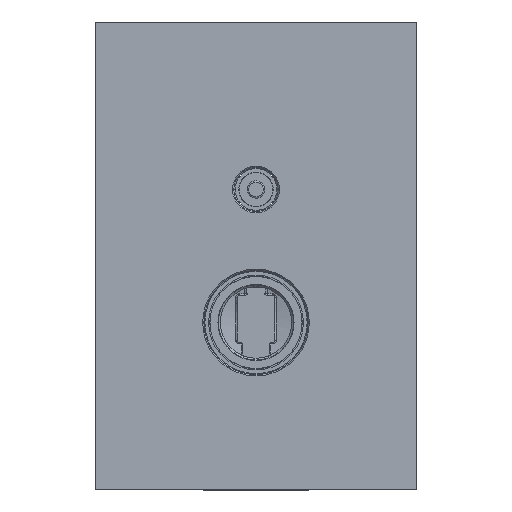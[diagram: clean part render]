
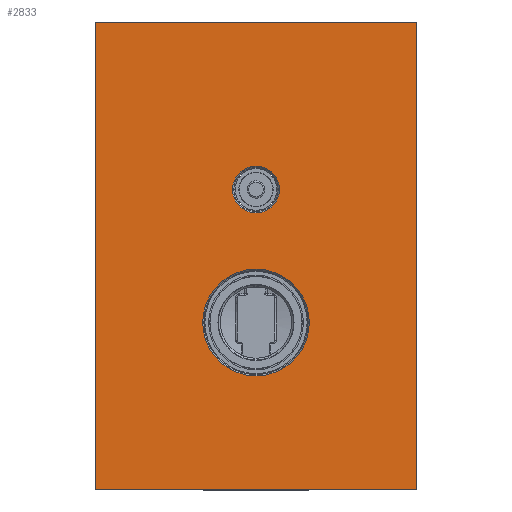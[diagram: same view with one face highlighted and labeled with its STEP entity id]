
A CAD part, front view. The second image highlights one B-rep face of the part: STEP entity #2833.
In plain terms, the highlighted planar face has unit normal (0, -1, 0).
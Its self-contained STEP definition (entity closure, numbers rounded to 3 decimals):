
#2124=CARTESIAN_POINT('',(64.5,0.,-94.5));
#2125=DIRECTION('',(0.,1.,0.));
#2126=DIRECTION('',(1.,0.,0.));
#2127=AXIS2_PLACEMENT_3D('',#2124,#2125,#2126);
#2129=CARTESIAN_POINT('',(-64.5,0.,-94.5));
#2130=DIRECTION('',(0.,1.,0.));
#2131=DIRECTION('',(0.,0.,-1.));
#2132=AXIS2_PLACEMENT_3D('',#2129,#2130,#2131);
#2134=CARTESIAN_POINT('',(-64.5,0.,94.5));
#2135=DIRECTION('',(0.,1.,0.));
#2136=DIRECTION('',(-1.,0.,0.));
#2137=AXIS2_PLACEMENT_3D('',#2134,#2135,#2136);
#2139=CARTESIAN_POINT('',(64.5,0.,94.5));
#2140=DIRECTION('',(0.,1.,0.));
#2141=DIRECTION('',(0.,0.,1.));
#2142=AXIS2_PLACEMENT_3D('',#2139,#2140,#2141);
#2144=CARTESIAN_POINT('',(0.,0.,-27.));
#2145=DIRECTION('',(0.,-1.,0.));
#2146=DIRECTION('',(1.,0.,0.));
#2147=AXIS2_PLACEMENT_3D('',#2144,#2145,#2146);
#2149=CARTESIAN_POINT('',(0.,0.,-27.));
#2150=DIRECTION('',(0.,-1.,0.));
#2151=DIRECTION('',(0.,0.,1.));
#2152=AXIS2_PLACEMENT_3D('',#2149,#2150,#2151);
#2154=CARTESIAN_POINT('',(0.,0.,-27.));
#2155=DIRECTION('',(0.,-1.,0.));
#2156=DIRECTION('',(-1.,0.,0.));
#2157=AXIS2_PLACEMENT_3D('',#2154,#2155,#2156);
#2159=CARTESIAN_POINT('',(0.,0.,-27.));
#2160=DIRECTION('',(0.,-1.,0.));
#2161=DIRECTION('',(0.,0.,-1.));
#2162=AXIS2_PLACEMENT_3D('',#2159,#2160,#2161);
#2164=CARTESIAN_POINT('',(0.,0.,27.));
#2165=DIRECTION('',(0.,-1.,0.));
#2166=DIRECTION('',(1.,0.,0.));
#2167=AXIS2_PLACEMENT_3D('',#2164,#2165,#2166);
#2169=CARTESIAN_POINT('',(0.,0.,27.));
#2170=DIRECTION('',(0.,-1.,0.));
#2171=DIRECTION('',(0.,0.,1.));
#2172=AXIS2_PLACEMENT_3D('',#2169,#2170,#2171);
#2174=CARTESIAN_POINT('',(0.,0.,27.));
#2175=DIRECTION('',(0.,-1.,0.));
#2176=DIRECTION('',(-1.,0.,0.));
#2177=AXIS2_PLACEMENT_3D('',#2174,#2175,#2176);
#2179=CARTESIAN_POINT('',(0.,0.,27.));
#2180=DIRECTION('',(0.,-1.,0.));
#2181=DIRECTION('',(0.,0.,-1.));
#2182=AXIS2_PLACEMENT_3D('',#2179,#2180,#2181);
#2218=DIRECTION('',(0.,0.,1.));
#2219=VECTOR('',#2218,189.);
#2220=CARTESIAN_POINT('',(65.,0.,-94.5));
#2221=LINE('',#2220,#2219);
#2258=DIRECTION('',(-1.,0.,0.));
#2259=VECTOR('',#2258,129.);
#2260=CARTESIAN_POINT('',(64.5,0.,95.));
#2261=LINE('',#2260,#2259);
#2296=DIRECTION('',(0.,0.,-1.));
#2297=VECTOR('',#2296,189.);
#2298=CARTESIAN_POINT('',(-65.,0.,94.5));
#2299=LINE('',#2298,#2297);
#2336=DIRECTION('',(1.,0.,0.));
#2337=VECTOR('',#2336,129.);
#2338=CARTESIAN_POINT('',(-64.5,0.,-95.));
#2339=LINE('',#2338,#2337);
#2668=CARTESIAN_POINT('',(65.,0.,-94.5));
#2669=CARTESIAN_POINT('',(64.5,0.,-95.));
#2670=VERTEX_POINT('',#2668);
#2671=VERTEX_POINT('',#2669);
#2672=CARTESIAN_POINT('',(-64.5,0.,-95.));
#2673=VERTEX_POINT('',#2672);
#2674=CARTESIAN_POINT('',(-65.,0.,-94.5));
#2675=VERTEX_POINT('',#2674);
#2676=CARTESIAN_POINT('',(-65.,0.,94.5));
#2677=VERTEX_POINT('',#2676);
#2678=CARTESIAN_POINT('',(-64.5,0.,95.));
#2679=VERTEX_POINT('',#2678);
#2680=CARTESIAN_POINT('',(64.5,0.,95.));
#2681=VERTEX_POINT('',#2680);
#2682=CARTESIAN_POINT('',(65.,0.,94.5));
#2683=VERTEX_POINT('',#2682);
#2684=CARTESIAN_POINT('',(0.,0.,
-5.35));
#2685=CARTESIAN_POINT('',(-21.65,0.,-27.));
#2686=VERTEX_POINT('',#2684);
#2687=VERTEX_POINT('',#2685);
#2688=CARTESIAN_POINT('',(21.65,0.,-27.));
#2689=VERTEX_POINT('',#2688);
#2690=CARTESIAN_POINT('',(0.,0.,
-48.65));
#2691=VERTEX_POINT('',#2690);
#2692=CARTESIAN_POINT('',(0.,0.,
36.5));
#2693=CARTESIAN_POINT('',(-9.5,0.,27.));
#2694=VERTEX_POINT('',#2692);
#2695=VERTEX_POINT('',#2693);
#2696=CARTESIAN_POINT('',(9.5,0.,27.));
#2697=VERTEX_POINT('',#2696);
#2698=CARTESIAN_POINT('',(0.,0.,
17.5));
#2699=VERTEX_POINT('',#2698);
#2790=CARTESIAN_POINT('',(0.,0.,0.));
#2791=DIRECTION('',(0.,1.,0.));
#2792=DIRECTION('',(1.,0.,0.));
#2793=AXIS2_PLACEMENT_3D('',#2790,#2791,#2792);
#2794=PLANE('',#2793);
#2796=ORIENTED_EDGE('',*,*,#2795,.T.);
#2798=ORIENTED_EDGE('',*,*,#2797,.F.);
#2800=ORIENTED_EDGE('',*,*,#2799,.T.);
#2802=ORIENTED_EDGE('',*,*,#2801,.F.);
#2804=ORIENTED_EDGE('',*,*,#2803,.T.);
#2806=ORIENTED_EDGE('',*,*,#2805,.F.);
#2808=ORIENTED_EDGE('',*,*,#2807,.T.);
#2810=ORIENTED_EDGE('',*,*,#2809,.F.);
#2811=EDGE_LOOP('',(#2796,#2798,#2800,#2802,#2804,#2806,#2808,#2810));
#2812=FACE_OUTER_BOUND('',#2811,.F.);
#2814=ORIENTED_EDGE('',*,*,#2813,.T.);
#2816=ORIENTED_EDGE('',*,*,#2815,.T.);
#2818=ORIENTED_EDGE('',*,*,#2817,.T.);
#2820=ORIENTED_EDGE('',*,*,#2819,.T.);
#2821=EDGE_LOOP('',(#2814,#2816,#2818,#2820));
#2822=FACE_BOUND('',#2821,.F.);
#2824=ORIENTED_EDGE('',*,*,#2823,.T.);
#2826=ORIENTED_EDGE('',*,*,#2825,.T.);
#2828=ORIENTED_EDGE('',*,*,#2827,.T.);
#2830=ORIENTED_EDGE('',*,*,#2829,.T.);
#2831=EDGE_LOOP('',(#2824,#2826,#2828,#2830));
#2832=FACE_BOUND('',#2831,.F.);
#2833=ADVANCED_FACE('',(#2812,#2822,#2832),#2794,.F.);
#2128=CIRCLE('',#2127,0.5);
#2133=CIRCLE('',#2132,0.5);
#2138=CIRCLE('',#2137,0.5);
#2143=CIRCLE('',#2142,0.5);
#2148=CIRCLE('',#2147,21.65);
#2153=CIRCLE('',#2152,21.65);
#2158=CIRCLE('',#2157,21.65);
#2163=CIRCLE('',#2162,21.65);
#2168=CIRCLE('',#2167,9.5);
#2173=CIRCLE('',#2172,9.5);
#2178=CIRCLE('',#2177,9.5);
#2183=CIRCLE('',#2182,9.5);
#2795=EDGE_CURVE('',#2670,#2671,#2128,.T.);
#2797=EDGE_CURVE('',#2673,#2671,#2339,.T.);
#2799=EDGE_CURVE('',#2673,#2675,#2133,.T.);
#2801=EDGE_CURVE('',#2677,#2675,#2299,.T.);
#2803=EDGE_CURVE('',#2677,#2679,#2138,.T.);
#2805=EDGE_CURVE('',#2681,#2679,#2261,.T.);
#2807=EDGE_CURVE('',#2681,#2683,#2143,.T.);
#2809=EDGE_CURVE('',#2670,#2683,#2221,.T.);
#2813=EDGE_CURVE('',#2689,#2686,#2148,.T.);
#2815=EDGE_CURVE('',#2686,#2687,#2153,.T.);
#2817=EDGE_CURVE('',#2687,#2691,#2158,.T.);
#2819=EDGE_CURVE('',#2691,#2689,#2163,.T.);
#2823=EDGE_CURVE('',#2697,#2694,#2168,.T.);
#2825=EDGE_CURVE('',#2694,#2695,#2173,.T.);
#2827=EDGE_CURVE('',#2695,#2699,#2178,.T.);
#2829=EDGE_CURVE('',#2699,#2697,#2183,.T.);
